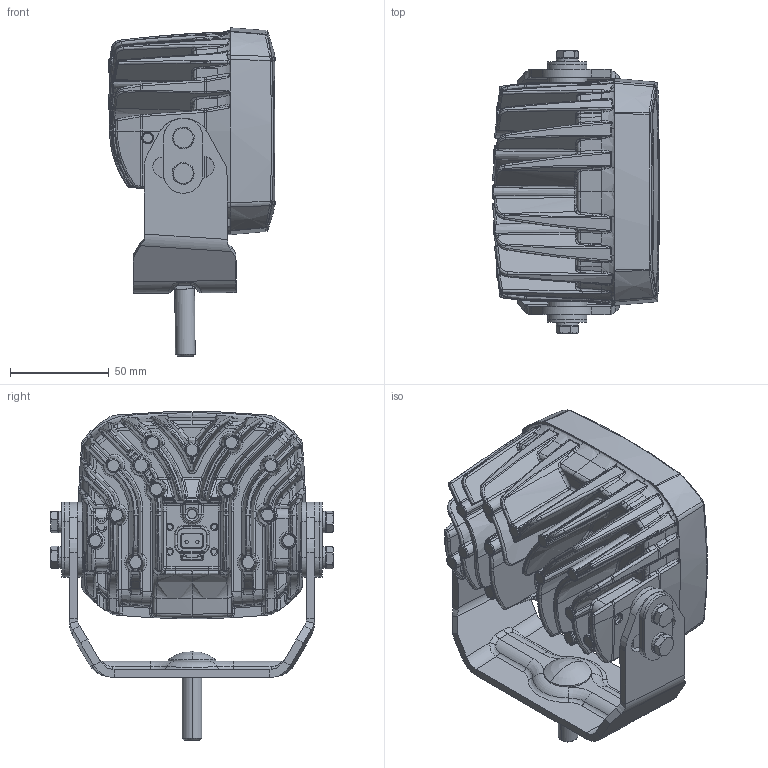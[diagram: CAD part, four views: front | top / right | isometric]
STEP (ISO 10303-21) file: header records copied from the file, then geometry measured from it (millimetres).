
FILE_DESCRIPTION(('CATIA V5 STEP Exchange','CAx-IF Rec.Pracs.--- Model Styling and Organization---1.5--- 2016-08-15','CAx-IF Rec.Pracs.---Supplemental Geometry---1.0---2011-11-01','CAx-IF Rec.Pracs.--- Composite Materials ---1.1---2010-07-15'),'2;1');
FILE_NAME('E:\tmp\ddx\2015442\HELLA_3D_data_Ultra_Beam_LED_Generation_1_upright_and_pendant_mounting_995-506-08.stp','2022-01-28T12:03:01+00:00',('none'),('none'),'CATIA Version 5-6 Release 2020 SP3 HF9','CATIA V5 STEP AP214 Edition 3 v2','none');
FILE_SCHEMA(('AUTOMOTIVE_DESIGN { 1 0 10303 214 3 1 1 1 }'));
Length unit declared in the file: millimetre
Products named in the file (1): 10001398165_D10_001
Bounding box: 84.48 x 143.1 x 166.35 mm (x, y, z)
Volume: 635540.1 mm3; surface area: 134587.6 mm2
Topology: 2 solids, 4 shells, 2882 faces, 6964 edges, 3967 vertices
Faces by surface type: bspline 1361, plane 419, cylinder 408, cone 256, torus 234, sphere 94, revolution 72, extrusion 38
Entity records: 174713 total; most frequent: CARTESIAN_POINT 122741, ORIENTED_EDGE 13668, EDGE_CURVE 6834, DIRECTION 5144, B_SPLINE_CURVE_WITH_KNOTS 4306, VERTEX_POINT 3967, EDGE_LOOP 2935, ADVANCED_FACE 2882
